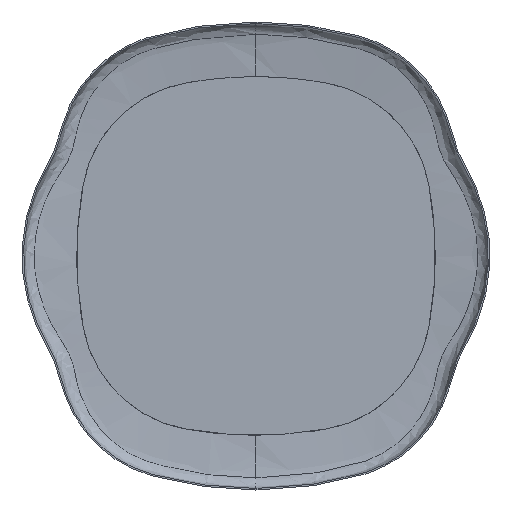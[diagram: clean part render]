
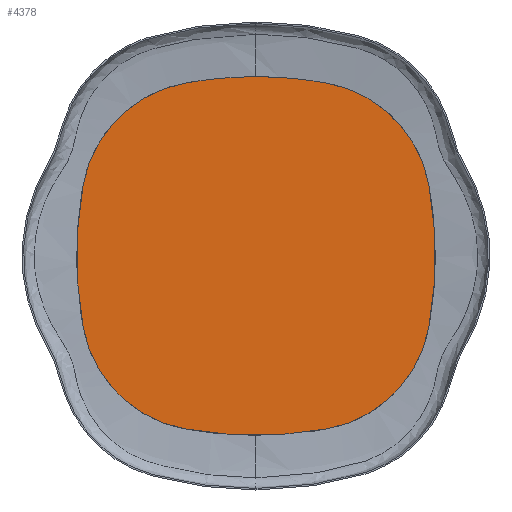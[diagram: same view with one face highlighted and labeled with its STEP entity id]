
A CAD part, top view. The second image highlights one B-rep face of the part: STEP entity #4378.
In plain terms, the highlighted planar face has unit normal (0, 0, 1) as drawn and (0, 1, 0) by its records, which use the part's own axes.
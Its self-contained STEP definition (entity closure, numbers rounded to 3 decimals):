
#163 = CIRCLE ( 'NONE', #10237, 1000. ) ;
#204 = EDGE_CURVE ( 'NONE', #8536, #11711, #163, .T. ) ;
#211 = DIRECTION ( 'NONE',  ( 0., 1., 0. ) ) ;
#552 = DIRECTION ( 'NONE',  ( 0., 0., 1. ) ) ;
#663 = CARTESIAN_POINT ( 'NONE',  ( 123.589, 9., -123.589 ) ) ;
#690 = CARTESIAN_POINT ( 'NONE',  ( -183.095, 9., -443.095 ) ) ;
#768 = AXIS2_PLACEMENT_3D ( 'NONE', #11459, #4477, #552 ) ;
#1136 = FACE_OUTER_BOUND ( 'NONE', #4092, .T. ) ;
#1181 = EDGE_CURVE ( 'NONE', #7085, #2036, #6151, .T. ) ;
#1283 = VERTEX_POINT ( 'NONE', #690 ) ;
#1574 = CARTESIAN_POINT ( 'NONE',  ( -123.589, 9., 123.589 ) ) ;
#1721 = EDGE_CURVE ( 'NONE', #12902, #1283, #4266, .T. ) ;
#1879 = DIRECTION ( 'NONE',  ( 0., 1., 0. ) ) ;
#1983 = DIRECTION ( 'NONE',  ( 0., 0., 1. ) ) ;
#2036 = VERTEX_POINT ( 'NONE', #7351 ) ;
#2125 = EDGE_CURVE ( 'NONE', #3015, #12902, #3223, .T. ) ;
#2160 = ORIENTED_EDGE ( 'NONE', *, *, #204, .T. ) ;
#2356 = DIRECTION ( 'NONE',  ( 0., 1., 0. ) ) ;
#2545 = DIRECTION ( 'NONE',  ( 0., 1., 0. ) ) ;
#2995 = EDGE_CURVE ( 'NONE', #2036, #3015, #8263, .T. ) ;
#3015 = VERTEX_POINT ( 'NONE', #9776 ) ;
#3045 = CIRCLE ( 'NONE', #10414, 1000. ) ;
#3223 = CIRCLE ( 'NONE', #5331, 1000. ) ;
#3599 = DIRECTION ( 'NONE',  ( 0., 0., 1. ) ) ;
#3607 = CARTESIAN_POINT ( 'NONE',  ( 0., 9., -540. ) ) ;
#3673 = CIRCLE ( 'NONE', #7861, 325. ) ;
#3696 = DIRECTION ( 'NONE',  ( 0., 1., 0. ) ) ;
#4008 = CARTESIAN_POINT ( 'NONE',  ( -183.095, 9., 443.095 ) ) ;
#4092 = EDGE_LOOP ( 'NONE', ( #6498, #2160, #7157, #9378, #5057, #8237, #12845, #4866, #11557 ) ) ;
#4266 = CIRCLE ( 'NONE', #11633, 1000. ) ;
#4378 = ADVANCED_FACE ( 'NONE', ( #1136 ), #5142, .T. ) ;
#4473 = AXIS2_PLACEMENT_3D ( 'NONE', #7647, #3696, #6664 ) ;
#4477 = DIRECTION ( 'NONE',  ( 0., 1., 0. ) ) ;
#4593 = CARTESIAN_POINT ( 'NONE',  ( 183.095, 9., 443.095 ) ) ;
#4866 = ORIENTED_EDGE ( 'NONE', *, *, #2125, .T. ) ;
#5057 = ORIENTED_EDGE ( 'NONE', *, *, #8476, .T. ) ;
#5122 = DIRECTION ( 'NONE',  ( 0., 0., 1. ) ) ;
#5142 = PLANE ( 'NONE',  #12281 ) ;
#5196 = VERTEX_POINT ( 'NONE', #4008 ) ;
#5316 = CARTESIAN_POINT ( 'NONE',  ( 0., 9., 540. ) ) ;
#5331 = AXIS2_PLACEMENT_3D ( 'NONE', #5316, #2356, #11436 ) ;
#6151 = CIRCLE ( 'NONE', #4473, 1000. ) ;
#6342 = CARTESIAN_POINT ( 'NONE',  ( -443.095, 9., 183.095 ) ) ;
#6453 = CARTESIAN_POINT ( 'NONE',  ( -443.095, 9., -183.095 ) ) ;
#6498 = ORIENTED_EDGE ( 'NONE', *, *, #12287, .T. ) ;
#6664 = DIRECTION ( 'NONE',  ( 0., 0., 1. ) ) ;
#6801 = EDGE_CURVE ( 'NONE', #11711, #5196, #3673, .T. ) ;
#7034 = CIRCLE ( 'NONE', #9566, 325. ) ;
#7085 = VERTEX_POINT ( 'NONE', #11095 ) ;
#7157 = ORIENTED_EDGE ( 'NONE', *, *, #6801, .T. ) ;
#7351 = CARTESIAN_POINT ( 'NONE',  ( 443.095, 9., -183.095 ) ) ;
#7624 = DIRECTION ( 'NONE',  ( 0., 1., 0. ) ) ;
#7642 = AXIS2_PLACEMENT_3D ( 'NONE', #663, #1879, #7862 ) ;
#7647 = CARTESIAN_POINT ( 'NONE',  ( -540., 9., 0. ) ) ;
#7689 = DIRECTION ( 'NONE',  ( 0., 0., 1. ) ) ;
#7861 = AXIS2_PLACEMENT_3D ( 'NONE', #1574, #12630, #3599 ) ;
#7862 = DIRECTION ( 'NONE',  ( 0., 0., 1. ) ) ;
#7873 = CARTESIAN_POINT ( 'NONE',  ( 0., 9., -460. ) ) ;
#8164 = DIRECTION ( 'NONE',  ( 0., 1., 0. ) ) ;
#8237 = ORIENTED_EDGE ( 'NONE', *, *, #1181, .T. ) ;
#8263 = CIRCLE ( 'NONE', #7642, 325. ) ;
#8476 = EDGE_CURVE ( 'NONE', #9973, #7085, #11686, .T. ) ;
#8536 = VERTEX_POINT ( 'NONE', #6453 ) ;
#8594 = DIRECTION ( 'NONE',  ( 0., 0., 1. ) ) ;
#9153 = CARTESIAN_POINT ( 'NONE',  ( 208.205, 9., -61.795 ) ) ;
#9378 = ORIENTED_EDGE ( 'NONE', *, *, #12892, .T. ) ;
#9566 = AXIS2_PLACEMENT_3D ( 'NONE', #12107, #211, #5122 ) ;
#9776 = CARTESIAN_POINT ( 'NONE',  ( 183.095, 9., -443.095 ) ) ;
#9973 = VERTEX_POINT ( 'NONE', #4593 ) ;
#10237 = AXIS2_PLACEMENT_3D ( 'NONE', #12560, #2545, #8594 ) ;
#10406 = DIRECTION ( 'NONE',  ( 0., 0., 1. ) ) ;
#10414 = AXIS2_PLACEMENT_3D ( 'NONE', #3607, #7624, #7689 ) ;
#10930 = CARTESIAN_POINT ( 'NONE',  ( 0., 9., 540. ) ) ;
#10993 = DIRECTION ( 'NONE',  ( 0., 1., 0. ) ) ;
#11095 = CARTESIAN_POINT ( 'NONE',  ( 443.095, 9., 183.095 ) ) ;
#11436 = DIRECTION ( 'NONE',  ( 0., 0., 1. ) ) ;
#11459 = CARTESIAN_POINT ( 'NONE',  ( 123.589, 9., 123.589 ) ) ;
#11557 = ORIENTED_EDGE ( 'NONE', *, *, #1721, .T. ) ;
#11633 = AXIS2_PLACEMENT_3D ( 'NONE', #10930, #10993, #1983 ) ;
#11686 = CIRCLE ( 'NONE', #768, 325. ) ;
#11711 = VERTEX_POINT ( 'NONE', #6342 ) ;
#12107 = CARTESIAN_POINT ( 'NONE',  ( -123.589, 9., -123.589 ) ) ;
#12281 = AXIS2_PLACEMENT_3D ( 'NONE', #9153, #8164, #10406 ) ;
#12287 = EDGE_CURVE ( 'NONE', #1283, #8536, #7034, .T. ) ;
#12560 = CARTESIAN_POINT ( 'NONE',  ( 540., 9., 0. ) ) ;
#12630 = DIRECTION ( 'NONE',  ( 0., 1., 0. ) ) ;
#12845 = ORIENTED_EDGE ( 'NONE', *, *, #2995, .T. ) ;
#12892 = EDGE_CURVE ( 'NONE', #5196, #9973, #3045, .T. ) ;
#12902 = VERTEX_POINT ( 'NONE', #7873 ) ;
